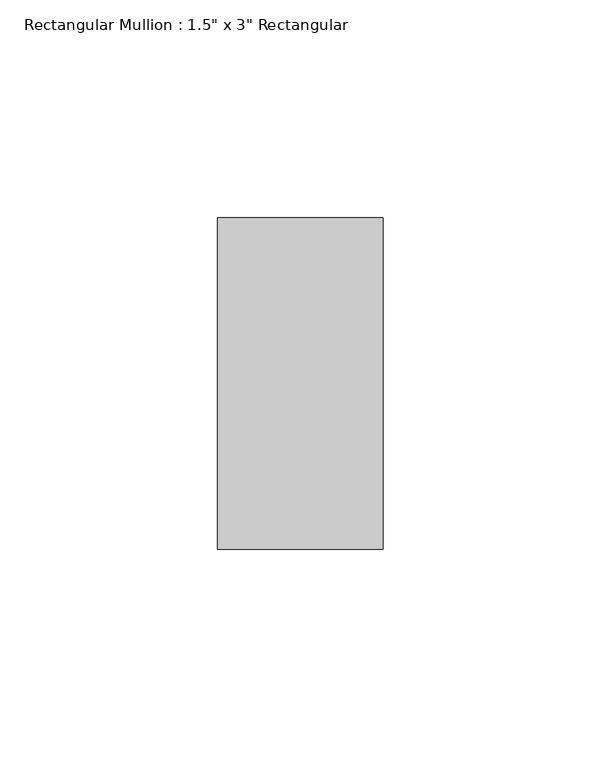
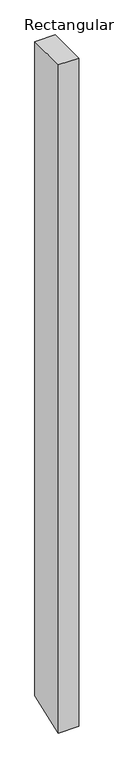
"""IFC4 building model written with IfcOpenShell, lengths in millimetres: member geometry."""

from ifc_helpers import new_model, si_unit, frame, origin, place, context, project, spatial, polyline, outline, extrude, source, transform, mapped, element, save


def member_13c44480(model_context):
    return source(origin(), model_context, "Body", "SweptSolid", [
        extrude(outline(polyline([(-38.1, 0.0), (38.1, 0.0), (38.1, -1295.952787), (-38.1, -1323.6873189), (-38.1, 0.0)])), frame((-38.1, 0.0, 0.0), z_axis=(1.0, 0.0, 0.0), x_axis=(0.0, 1.0, 0.0)), (0.0, 0.0, 1.0), 38.1),
    ])


if __name__ == "__main__":
    model = new_model("IFC4")
    model_context = context("Model", 3, world=origin())
    ifc_project = project(units=[si_unit("LENGTHUNIT", "METRE", prefix="MILLI")], contexts=[model_context])
    site = spatial("IfcSite", under=ifc_project)
    building = spatial("IfcBuilding", under=site)
    placement = place(None, origin())
    member_shape = member_13c44480(model_context)
    element("IfcMember", 1, ObjectType="Rectangular Mullion : 1.5\" x 3\" Rectangular", at=placement, inside=building, context=model_context, shape_type="MappedRepresentation", body=[
        mapped(member_shape, transform((0.0, 0.0, 0.0), x_axis=(1.0, 0.0, 0.0), y_axis=(0.0, 1.0, 0.0), z_axis=(0.0, 0.0, 1.0))),
    ])
    save(model, "model.ifc")
